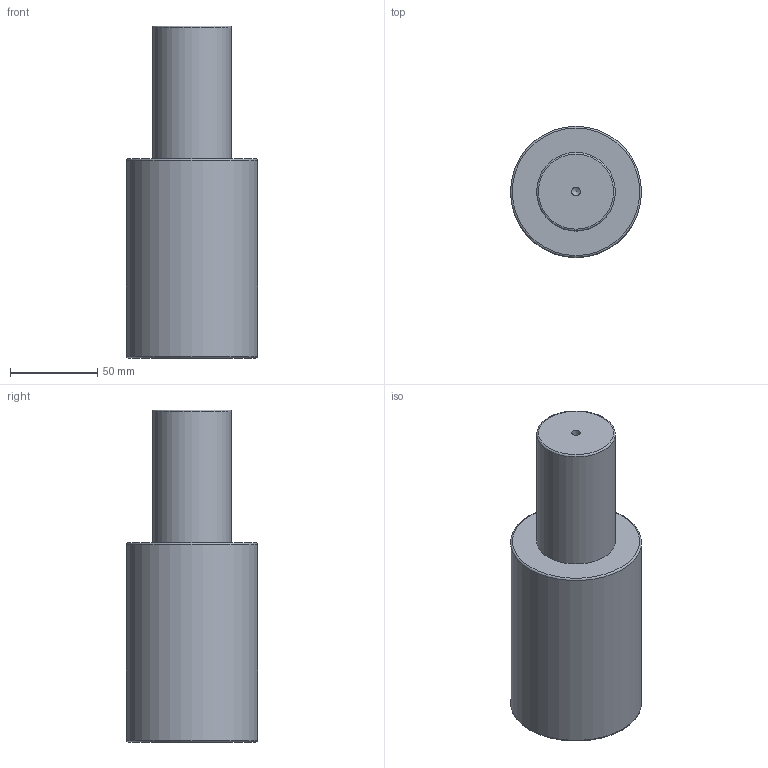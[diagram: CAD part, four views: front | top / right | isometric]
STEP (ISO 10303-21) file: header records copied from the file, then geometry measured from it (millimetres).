
FILE_DESCRIPTION(/* description */ (''),/* implementation_level */ '2;1');
FILE_NAME(/* name */ 'NV5-SMLX.75x75.stp',/* time_stamp */ '2018-08-31T16:08:28+02:00',/* author */ (''),/* organization */ (''),/* preprocessor_version */ 'ST-DEVELOPER v16',/* originating_system */ 'SIEMENS PLM Software NX 10.0',/* authorisation */ '');
FILE_SCHEMA (('AUTOMOTIVE_DESIGN { 1 0 10303 214 3 1 1 1 }'));
Length unit declared in the file: millimetre
Products named in the file (1): NV5-SMLX.75x75
Bounding box: 75 x 75 x 190 mm (x, y, z)
Volume: 622400.6 mm3; surface area: 47013.4 mm2
Topology: 1 solids, 1 shells, 12 faces, 24 edges, 15 vertices
Faces by surface type: cylinder 4, torus 3, plane 3, cone 2
Full cylindrical faces by diameter (mm): 5 x1, 10.3 x1, 45 x1, 75 x1
Entity records: 266 total; most frequent: DIRECTION 48, CARTESIAN_POINT 37, FACE_BOUND 24, AXIS2_PLACEMENT_3D 24, EDGE_LOOP 22, ORIENTED_EDGE 22, VERTEX_POINT 13, ADVANCED_FACE 12
